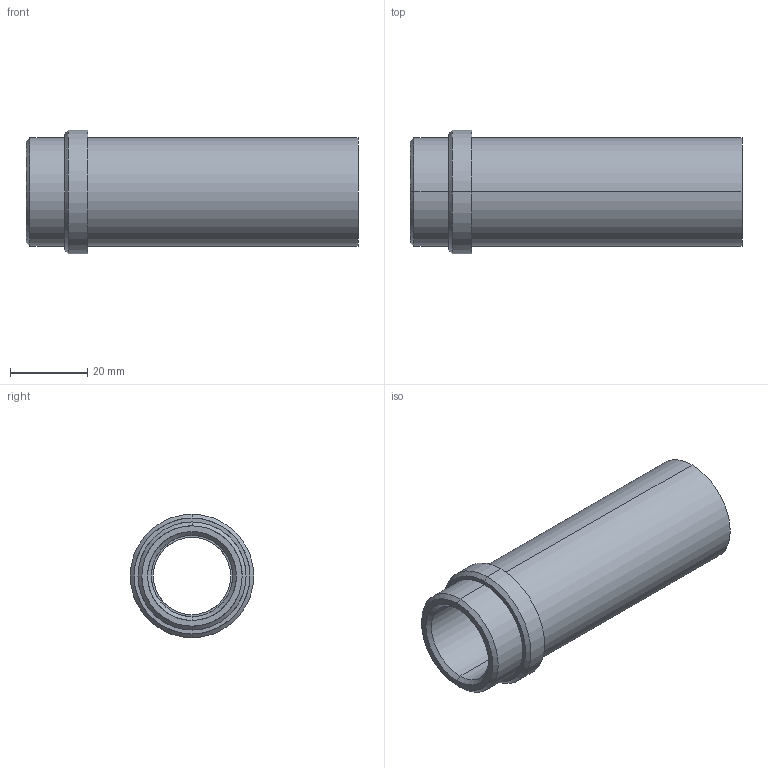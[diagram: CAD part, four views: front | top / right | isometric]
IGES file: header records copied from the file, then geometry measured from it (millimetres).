
Start section: START RECORD GO HERE.
Global section: file name: 358-20x86.igs; native system: DASSAULT SYSTEMES CATIA V5 R20 - www.3ds.com; preprocessor: CATIA Version 5 Release 20 ; author: Utente; organization: NB04-ASUS; date: 20210408.144225; units: millimetre
Bounding box: 86 x 32 x 32 mm (x, y, z)
Surface area: 13966.1 mm2 (no closed solid volume)
Topology: 0 solids, 0 shells, 23 faces, 148 edges, 148 vertices
Faces by surface type: revolution 18, plane 5
